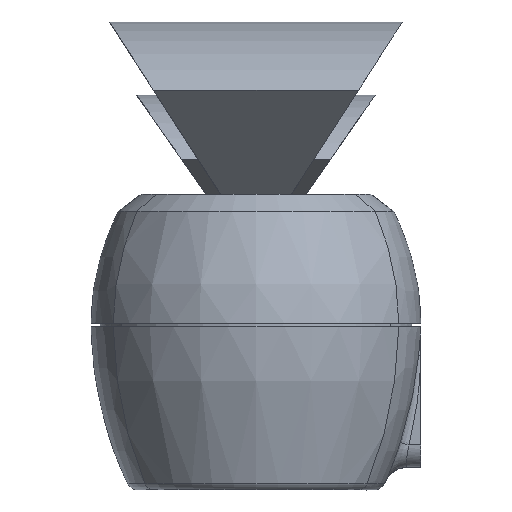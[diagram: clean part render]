
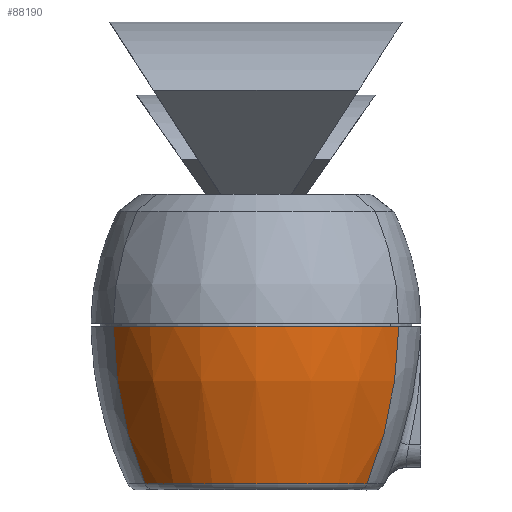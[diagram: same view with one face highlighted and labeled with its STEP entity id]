
A CAD part, left-side view. The second image highlights one B-rep face of the part: STEP entity #88190.
In plain terms, the highlighted face is a revolution surface.
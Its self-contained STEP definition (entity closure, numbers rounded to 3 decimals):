
#78613=CARTESIAN_POINT('',(-47.5,0.,-11.65));
#78614=DIRECTION('',(0.,0.,-1.));
#78615=DIRECTION('',(-0.5,-0.866,0.));
#78616=AXIS2_PLACEMENT_3D('',#78613,#78614,#78615);
#78618=CARTESIAN_POINT('',(-54.75,12.557,
-11.65));
#78818=CARTESIAN_POINT('',(-53.143,-9.773,
-25.443));
#78819=CARTESIAN_POINT('',(-53.167,-9.816,
-25.344));
#78820=CARTESIAN_POINT('',(-53.26,-9.977,
-24.96));
#78821=CARTESIAN_POINT('',(-53.478,-10.354,
-23.997));
#78822=CARTESIAN_POINT('',(-53.762,-10.846,
-22.537));
#78823=CARTESIAN_POINT('',(-54.049,-11.343,
-20.758));
#78824=CARTESIAN_POINT('',(-54.288,-11.757,
-18.956));
#78825=CARTESIAN_POINT('',(-54.482,-12.092,
-17.131));
#78826=CARTESIAN_POINT('',(-54.628,-12.347,
-15.282));
#78827=CARTESIAN_POINT('',(-54.709,-12.486,
-13.721));
#78828=CARTESIAN_POINT('',(-54.742,-12.544,
-12.507));
#78829=CARTESIAN_POINT('',(-54.749,-12.556,
-11.92));
#78830=CARTESIAN_POINT('',(-54.75,-12.557,
-11.65));
#79683=CARTESIAN_POINT('',(-47.5,0.,-25.443));
#79684=DIRECTION('',(0.,0.,-1.));
#79685=DIRECTION('',(-0.5,-0.866,0.));
#79686=AXIS2_PLACEMENT_3D('',#79683,#79684,#79685);
#79688=CARTESIAN_POINT('',(-53.143,9.773,
-25.443));
#79689=CARTESIAN_POINT('',(-53.191,9.856,
-25.249));
#79690=CARTESIAN_POINT('',(-53.419,10.251,
-24.291));
#79691=CARTESIAN_POINT('',(-53.73,10.791,
-22.734));
#79692=CARTESIAN_POINT('',(-54.049,11.343,
-20.758));
#79693=CARTESIAN_POINT('',(-54.288,11.757,-18.956));
#79694=CARTESIAN_POINT('',(-54.482,12.092,
-17.131));
#79695=CARTESIAN_POINT('',(-54.645,12.375,
-15.077));
#79696=CARTESIAN_POINT('',(-54.731,12.524,
-13.248));
#79697=CARTESIAN_POINT('',(-54.749,12.555,
-12.026));
#79698=CARTESIAN_POINT('',(-54.75,12.557,
-11.65));
#81566=CARTESIAN_POINT('',(-53.143,-9.773,
-25.443));
#81567=VERTEX_POINT('',#81566);
#81568=CARTESIAN_POINT('',(-53.143,9.773,
-25.443));
#81569=VERTEX_POINT('',#81568);
#81571=VERTEX_POINT('',#78618);
#81589=VERTEX_POINT('',#78830);
#88166=CARTESIAN_POINT('',(-47.5,-11.222,-25.571));
#88167=CARTESIAN_POINT('',(-47.5,-11.243,-25.528));
#88168=CARTESIAN_POINT('',(-47.5,-11.361,-25.292));
#88169=CARTESIAN_POINT('',(-47.5,-11.837,-24.291));
#88170=CARTESIAN_POINT('',(-47.5,-12.46,-22.734));
#88171=CARTESIAN_POINT('',(-47.5,-13.098,-20.758));
#88172=CARTESIAN_POINT('',(-47.5,-13.576,-18.956));
#88173=CARTESIAN_POINT('',(-47.5,-13.963,-17.131));
#88174=CARTESIAN_POINT('',(-47.5,-14.289,-15.077));
#88175=CARTESIAN_POINT('',(-47.5,-14.461,-13.248));
#88176=CARTESIAN_POINT('',(-47.5,-14.499,-11.979));
#88177=CARTESIAN_POINT('',(-47.5,-14.5,-11.555));
#88178=CARTESIAN_POINT('',(-47.5,-14.5,-11.507));
#88180=CARTESIAN_POINT('',(-47.5,0.,-25.));
#88181=DIRECTION('',(0.,0.,-1.));
#88182=AXIS1_PLACEMENT('',#88180,#88181);
#88183=SURFACE_OF_REVOLUTION('',#88179,#88182);
#88184=ORIENTED_EDGE('',*,*,#88160,.T.);
#88185=ORIENTED_EDGE('',*,*,#87971,.T.);
#88186=ORIENTED_EDGE('',*,*,#85247,.F.);
#88187=ORIENTED_EDGE('',*,*,#85538,.F.);
#88188=EDGE_LOOP('',(#88184,#88185,#88186,#88187));
#88189=FACE_OUTER_BOUND('',#88188,.F.);
#88190=ADVANCED_FACE('',(#88189),#88183,.F.);
#78617=CIRCLE('',#78616,14.5);
#78831=B_SPLINE_CURVE_WITH_KNOTS('',3,(#78818,#78819,#78820,#78821,#78822,
#78823,#78824,#78825,#78826,#78827,#78828,#78829,#78830),.UNSPECIFIED.,.F.,.F.,(
4,1,1,1,1,1,1,1,1,1,4),(0.,0.023,0.089,
0.22,0.352,0.484,0.615,
0.747,0.879,0.944,1.),.UNSPECIFIED.);
#79687=CIRCLE('',#79686,11.285);
#79699=B_SPLINE_CURVE_WITH_KNOTS('',3,(#79688,#79689,#79690,#79691,#79692,
#79693,#79694,#79695,#79696,#79697,#79698),.UNSPECIFIED.,.F.,.F.,(4,1,1,1,1,1,1,
1,4),(0.,0.045,0.22,0.352,
0.484,0.615,0.747,0.923,1.),
.UNSPECIFIED.);
#85247=EDGE_CURVE('',#81589,#81571,#78617,.T.);
#85538=EDGE_CURVE('',#81567,#81589,#78831,.T.);
#87971=EDGE_CURVE('',#81569,#81571,#79699,.T.);
#88160=EDGE_CURVE('',#81567,#81569,#79687,.T.);
#88179=B_SPLINE_CURVE_WITH_KNOTS('',3,(#88166,#88167,#88168,#88169,#88170,
#88171,#88172,#88173,#88174,#88175,#88176,#88177,#88178),.UNSPECIFIED.,.F.,.F.,(
4,1,1,1,1,1,1,1,1,1,4),(0.,0.01,0.054,
0.226,0.355,0.484,0.613,
0.742,0.914,0.99,1.),.UNSPECIFIED.);
